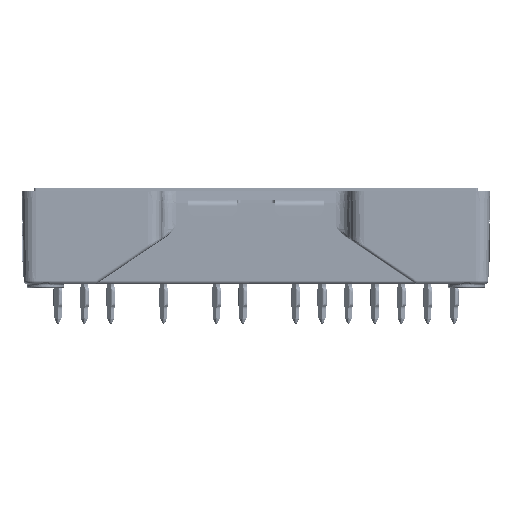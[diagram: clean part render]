
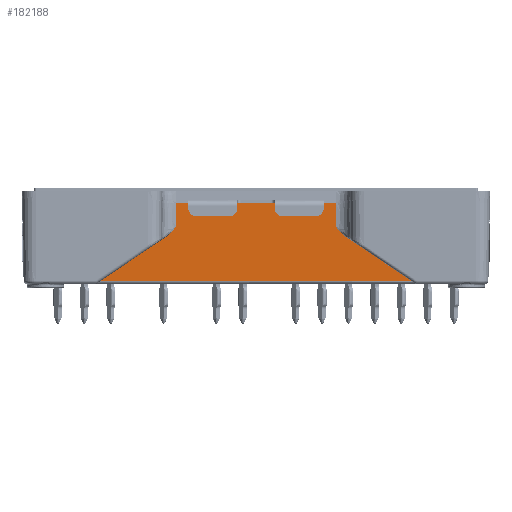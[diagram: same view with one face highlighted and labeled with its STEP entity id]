
A CAD part, front view. The second image highlights one B-rep face of the part: STEP entity #182188.
In plain terms, the highlighted planar face has unit normal (0, -1, -0.018).
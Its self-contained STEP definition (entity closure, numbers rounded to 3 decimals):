
#2172 = CARTESIAN_POINT ( 'NONE',  ( -10.315, -20.412, 6.648 ) ) ;
#4795 = CARTESIAN_POINT ( 'NONE',  ( -11.35, -20.475, 10.28 ) ) ;
#7117 = EDGE_LOOP ( 'NONE', ( #127853, #118962, #71028, #25402, #44284, #102131, #180797, #62019, #61820, #10794 ) ) ;
#9676 = CARTESIAN_POINT ( 'NONE',  ( 10.006, -20.418, 7.024 ) ) ;
#10794 = ORIENTED_EDGE ( 'NONE', *, *, #90362, .T. ) ;
#14048 = VECTOR ( 'NONE', #59963, 1000. ) ;
#15407 = CARTESIAN_POINT ( 'NONE',  ( 8.2, -20.475, 10.28 ) ) ;
#15634 = EDGE_CURVE ( 'NONE', #57158, #36648, #125742, .T. ) ;
#16006 = VECTOR ( 'NONE', #34916, 1000. ) ;
#16126 = CARTESIAN_POINT ( 'NONE',  ( -10.114, -20.416, 6.893 ) ) ;
#21772 = EDGE_CURVE ( 'NONE', #126269, #22111, #24966, .T. ) ;
#22111 = VERTEX_POINT ( 'NONE', #43195 ) ;
#24330 = CARTESIAN_POINT ( 'NONE',  ( 10.203, -20.414, 6.787 ) ) ;
#24966 = LINE ( 'NONE', #80007, #79930 ) ;
#25402 = ORIENTED_EDGE ( 'NONE', *, *, #165133, .T. ) ;
#26482 = CARTESIAN_POINT ( 'NONE',  ( 10.123, -20.416, 6.881 ) ) ;
#34214 = LINE ( 'NONE', #4795, #44565 ) ;
#34916 = DIRECTION ( 'NONE',  ( -1., 0., 0. ) ) ;
#36461 = EDGE_CURVE ( 'NONE', #114530, #198582, #34214, .T. ) ;
#36648 = VERTEX_POINT ( 'NONE', #163730 ) ;
#37880 = CARTESIAN_POINT ( 'NONE',  ( -9.65, -20.5, 11.7 ) ) ;
#38220 = EDGE_CURVE ( 'NONE', #126269, #157424, #176142, .T. ) ;
#41122 = CARTESIAN_POINT ( 'NONE',  ( 10.129, -20.416, 6.874 ) ) ;
#43195 = CARTESIAN_POINT ( 'NONE',  ( 18.767, -20.311, 0.893 ) ) ;
#44284 = ORIENTED_EDGE ( 'NONE', *, *, #123494, .T. ) ;
#44565 = VECTOR ( 'NONE', #54523, 1000. ) ;
#51102 = CARTESIAN_POINT ( 'NONE',  ( -10.11, -20.416, 6.898 ) ) ;
#54523 = DIRECTION ( 'NONE',  ( -1., 0., 0. ) ) ;
#56510 = CARTESIAN_POINT ( 'NONE',  ( 9.65, -20.427, 7.518 ) ) ;
#57158 = VERTEX_POINT ( 'NONE', #105237 ) ;
#57436 = LINE ( 'NONE', #84673, #96666 ) ;
#58969 = FACE_OUTER_BOUND ( 'NONE', #7117, .T. ) ;
#59963 = DIRECTION ( 'NONE',  ( 0.829, -0.01, 0.559 ) ) ;
#61820 = ORIENTED_EDGE ( 'NONE', *, *, #139477, .T. ) ;
#62019 = ORIENTED_EDGE ( 'NONE', *, *, #21772, .T. ) ;
#62130 = DIRECTION ( 'NONE',  ( 0., -1., -0.017 ) ) ;
#65091 = VERTEX_POINT ( 'NONE', #172183 ) ;
#65763 = CARTESIAN_POINT ( 'NONE',  ( -10.066, -20.417, 6.952 ) ) ;
#68518 = DIRECTION ( 'NONE',  ( -1., 0., 0. ) ) ;
#70571 = CARTESIAN_POINT ( 'NONE',  ( -11.35, -20.475, 10.28 ) ) ;
#71028 = ORIENTED_EDGE ( 'NONE', *, *, #36461, .T. ) ;
#75444 = CARTESIAN_POINT ( 'NONE',  ( 9.851, -20.422, 7.233 ) ) ;
#76125 = CARTESIAN_POINT ( 'NONE',  ( -9.65, -20.475, 10.28 ) ) ;
#79712 = CARTESIAN_POINT ( 'NONE',  ( -9.65, -20.427, 7.518 ) ) ;
#79930 = VECTOR ( 'NONE', #95382, 1000. ) ;
#80007 = CARTESIAN_POINT ( 'NONE',  ( -11.35, -20.311, 0.893 ) ) ;
#83343 = CARTESIAN_POINT ( 'NONE',  ( -10.092, -20.417, 6.92 ) ) ;
#83644 = VERTEX_POINT ( 'NONE', #76125 ) ;
#84673 = CARTESIAN_POINT ( 'NONE',  ( -11.35, -20.475, 10.28 ) ) ;
#89219 = B_SPLINE_CURVE_WITH_KNOTS ( 'NONE', 3,
 ( #207818, #90869, #90171, #124492, #24330, #175597, #141270, #41122, #26482, #190996, #9676, #75444, #56510 ),
 .UNSPECIFIED., .F., .F.,
 ( 4, 1, 1, 1, 1, 1, 2, 2, 4 ),
 ( 0., 0.25, 0.375, 0.438, 0.469, 0.484, 0.492, 0.5, 1. ),
 .UNSPECIFIED. ) ;
#90171 = CARTESIAN_POINT ( 'NONE',  ( 10.454, -20.41, 6.521 ) ) ;
#90362 = EDGE_CURVE ( 'NONE', #65091, #57158, #89219, .T. ) ;
#90749 = B_SPLINE_CURVE_WITH_KNOTS ( 'NONE', 3,
 ( #79712, #97990, #201011, #100901, #65763, #83343, #201733, #51102, #200288, #16126, #2172, #183445, #118394 ),
 .UNSPECIFIED., .F., .F.,
 ( 4, 1, 1, 1, 1, 1, 2, 2, 4 ),
 ( 0., 0.25, 0.375, 0.438, 0.469, 0.484, 0.492, 0.5, 1. ),
 .UNSPECIFIED. ) ;
#90869 = CARTESIAN_POINT ( 'NONE',  ( 10.591, -20.408, 6.408 ) ) ;
#95152 = EDGE_CURVE ( 'NONE', #36648, #114530, #57436, .T. ) ;
#95382 = DIRECTION ( 'NONE',  ( 1., 0., 0. ) ) ;
#96666 = VECTOR ( 'NONE', #68518, 1000. ) ;
#97990 = CARTESIAN_POINT ( 'NONE',  ( -9.75, -20.425, 7.376 ) ) ;
#100901 = CARTESIAN_POINT ( 'NONE',  ( -10.01, -20.418, 7.024 ) ) ;
#102131 = ORIENTED_EDGE ( 'NONE', *, *, #114567, .T. ) ;
#105237 = CARTESIAN_POINT ( 'NONE',  ( 9.65, -20.427, 7.518 ) ) ;
#107659 = LINE ( 'NONE', #70571, #16006 ) ;
#109603 = CARTESIAN_POINT ( 'NONE',  ( -18.767, -20.311, 0.893 ) ) ;
#114530 = VERTEX_POINT ( 'NONE', #15407 ) ;
#114567 = EDGE_CURVE ( 'NONE', #194425, #157424, #90749, .T. ) ;
#116720 = AXIS2_PLACEMENT_3D ( 'NONE', #161488, #62130, #179033 ) ;
#117923 = LINE ( 'NONE', #189321, #164626 ) ;
#118394 = CARTESIAN_POINT ( 'NONE',  ( -10.679, -20.407, 6.349 ) ) ;
#118962 = ORIENTED_EDGE ( 'NONE', *, *, #95152, .T. ) ;
#123494 = EDGE_CURVE ( 'NONE', #83644, #194425, #204050, .T. ) ;
#124492 = CARTESIAN_POINT ( 'NONE',  ( 10.288, -20.413, 6.691 ) ) ;
#125742 = LINE ( 'NONE', #201195, #172704 ) ;
#126269 = VERTEX_POINT ( 'NONE', #109603 ) ;
#126513 = CARTESIAN_POINT ( 'NONE',  ( -9.65, -20.427, 7.518 ) ) ;
#127853 = ORIENTED_EDGE ( 'NONE', *, *, #15634, .T. ) ;
#134698 = DIRECTION ( 'NONE',  ( 0., -0.017, 1. ) ) ;
#139477 = EDGE_CURVE ( 'NONE', #22111, #65091, #117923, .T. ) ;
#141270 = CARTESIAN_POINT ( 'NONE',  ( 10.139, -20.416, 6.863 ) ) ;
#142687 = CARTESIAN_POINT ( 'NONE',  ( -8.2, -20.475, 10.28 ) ) ;
#155528 = DIRECTION ( 'NONE',  ( 0., 0.017, -1. ) ) ;
#157424 = VERTEX_POINT ( 'NONE', #183791 ) ;
#161488 = CARTESIAN_POINT ( 'NONE',  ( -11.35, -20.5, 11.7 ) ) ;
#162186 = PLANE ( 'NONE',  #116720 ) ;
#163730 = CARTESIAN_POINT ( 'NONE',  ( 9.65, -20.475, 10.28 ) ) ;
#164626 = VECTOR ( 'NONE', #206159, 1000. ) ;
#165133 = EDGE_CURVE ( 'NONE', #198582, #83644, #107659, .T. ) ;
#172183 = CARTESIAN_POINT ( 'NONE',  ( 10.679, -20.407, 6.349 ) ) ;
#172704 = VECTOR ( 'NONE', #134698, 1000. ) ;
#175597 = CARTESIAN_POINT ( 'NONE',  ( 10.16, -20.415, 6.837 ) ) ;
#176142 = LINE ( 'NONE', #192253, #14048 ) ;
#179033 = DIRECTION ( 'NONE',  ( -1., 0., 0. ) ) ;
#180797 = ORIENTED_EDGE ( 'NONE', *, *, #38220, .F. ) ;
#182188 = ADVANCED_FACE ( 'NONE', ( #58969 ), #162186, .T. ) ;
#183445 = CARTESIAN_POINT ( 'NONE',  ( -10.502, -20.409, 6.468 ) ) ;
#183791 = CARTESIAN_POINT ( 'NONE',  ( -10.679, -20.407, 6.349 ) ) ;
#189321 = CARTESIAN_POINT ( 'NONE',  ( 11.444, -20.398, 5.833 ) ) ;
#190996 = CARTESIAN_POINT ( 'NONE',  ( 10.119, -20.416, 6.887 ) ) ;
#192253 = CARTESIAN_POINT ( 'NONE',  ( -19.443, -20.303, 0.437 ) ) ;
#194425 = VERTEX_POINT ( 'NONE', #126513 ) ;
#198582 = VERTEX_POINT ( 'NONE', #142687 ) ;
#200288 = CARTESIAN_POINT ( 'NONE',  ( -10.113, -20.416, 6.893 ) ) ;
#201011 = CARTESIAN_POINT ( 'NONE',  ( -9.884, -20.421, 7.191 ) ) ;
#201195 = CARTESIAN_POINT ( 'NONE',  ( 9.65, -20.5, 11.7 ) ) ;
#201733 = CARTESIAN_POINT ( 'NONE',  ( -10.105, -20.416, 6.904 ) ) ;
#204050 = LINE ( 'NONE', #37880, #206765 ) ;
#206159 = DIRECTION ( 'NONE',  ( -0.829, -0.01, 0.559 ) ) ;
#206765 = VECTOR ( 'NONE', #155528, 1000. ) ;
#207818 = CARTESIAN_POINT ( 'NONE',  ( 10.679, -20.407, 6.349 ) ) ;
